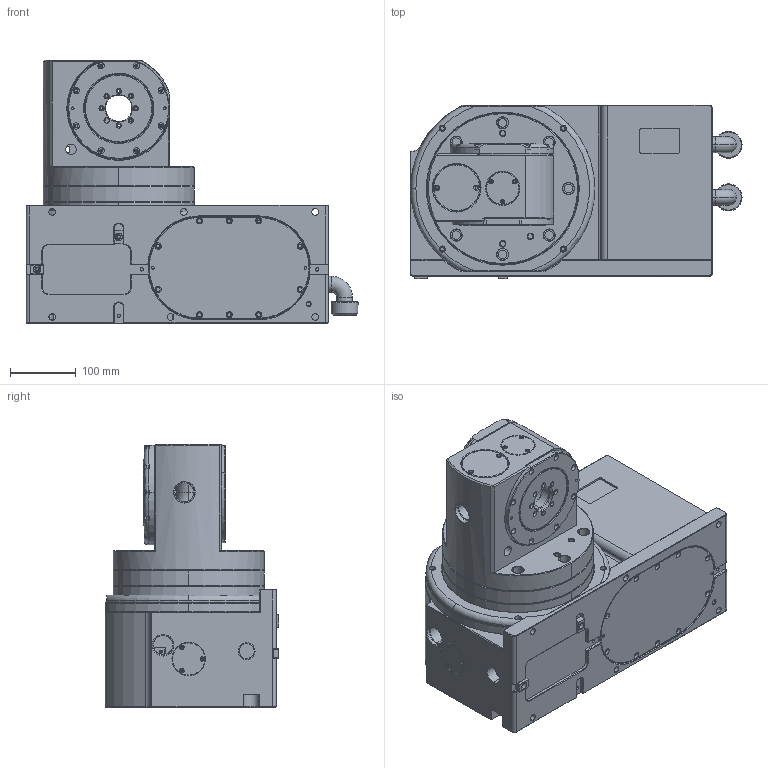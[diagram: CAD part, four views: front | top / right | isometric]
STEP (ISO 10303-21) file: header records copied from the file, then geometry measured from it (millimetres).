
FILE_DESCRIPTION (( 'STEP AP203' ), '1' );
FILE_NAME ('WDS-T100 俋夤芞 REV.01.STEP', '2020-08-05T03:46:57', ( '' ), ( '' ), 'SwSTEP 2.0', 'SolidWorks 2018', '' );
FILE_SCHEMA (( 'CONFIG_CONTROL_DESIGN' ));
Length unit declared in the file: millimetre
Products named in the file (1): WDS-T100 俋夤芞 REV.01
Bounding box: 505 x 264 x 400.5 mm (x, y, z)
Surface area: 901592.8 mm2 (no closed solid volume)
Topology: 0 solids, 31 shells, 1017 faces, 2916 edges, 1950 vertices
Faces by surface type: cylinder 516, plane 259, cone 186, torus 54, bspline 2
Entity records: 37413 total; most frequent: CARTESIAN_POINT 9474, DIRECTION 6475, ORIENTED_EDGE 5015, EDGE_CURVE 2916, AXIS2_PLACEMENT_3D 2631, VERTEX_POINT 1950, CIRCLE 1615, EDGE_LOOP 1343
